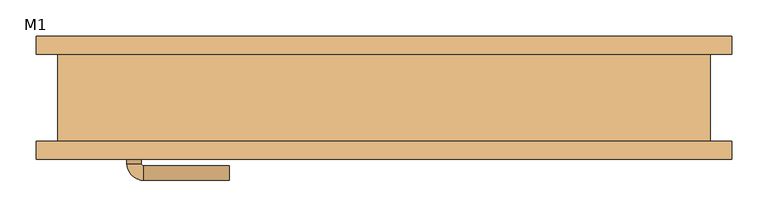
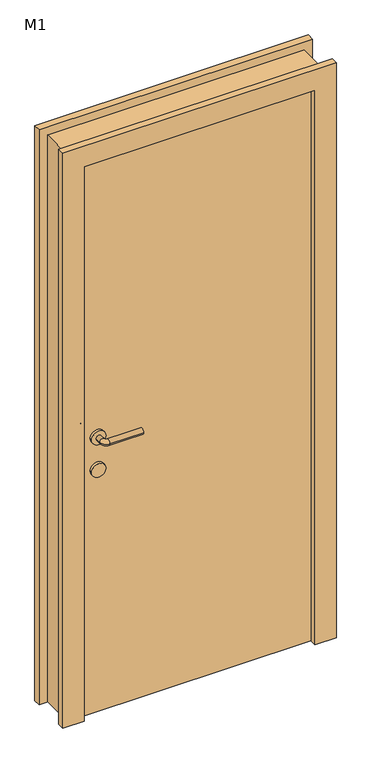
"""IFC4 building model written with IfcOpenShell, lengths in millimetres: door geometry, 单嵌板木门 1 : M1."""

import ifcopenshell
import ifcopenshell.guid

model = None  # the IFC model being written
_history = None  # IfcOwnerHistory: only IFC2X3 demands one
_inside = {}  # id of a spatial element -> (the spatial element, [elements in it])
_under = {}  # id of a project, library or spatial element -> (it, [spatial elements below it])
_declared = {}  # id of a project -> (the project, [libraries it declares])
_typed = {}  # id of a type object -> (the type object, [elements of that type])
_made_of = {}  # id of a material, layer set ... -> (it, [elements and type objects made of it])


def new_model(schema):
    """Start an empty IFC model of exactly this schema.

    Asked for "IFC4X3", IfcOpenShell would pick the latest addendum, in which some entities
    have other attributes; the version numbers below select the first issue.
    IFC2X3 requires an IfcOwnerHistory on every rooted entity: one is made here for all.
    """
    global model, _history
    if schema == "IFC4X3":
        model = ifcopenshell.file(schema_version=(4, 3, 0, 0))
    else:
        model = ifcopenshell.file(schema=schema)
    _inside.clear()
    _under.clear()
    _declared.clear()
    _typed.clear()
    _made_of.clear()
    _history = None
    if model.schema == "IFC2X3":
        org = make("IfcOrganization", Name="unknown")
        user = make(
            "IfcPersonAndOrganization",
            ThePerson=make("IfcPerson", FamilyName="unknown"),
            TheOrganization=org,
        )
        app = make(
            "IfcApplication",
            ApplicationDeveloper=org,
            Version="unknown",
            ApplicationFullName="unknown",
            ApplicationIdentifier="unknown",
        )
        _history = make(
            "IfcOwnerHistory",
            OwningUser=user,
            OwningApplication=app,
            ChangeAction="ADDED",
            CreationDate=0,
        )
    return model


def make(cls, **values):
    """One entity of the class cls with the attributes given. An attribute that is None is left unset."""
    return model.create_entity(
        cls, **{name: value for name, value in values.items() if value is not None}
    )


def rooted(cls, **values):
    """An entity with a GlobalId (a new one), such as an element, a storey or a relation."""
    return make(cls, GlobalId=ifcopenshell.guid.new(), OwnerHistory=_history, **values)


def si_unit(unit_type, name, prefix=None):
    """IfcSIUnit, for example si_unit("LENGTHUNIT", "METRE", prefix="MILLI")."""
    return make("IfcSIUnit", UnitType=unit_type, Prefix=prefix, Name=name)


def assignment(units):
    """IfcUnitAssignment: the units of a project."""
    return None if units is None else make("IfcUnitAssignment", Units=units)


def point(xyz):
    """IfcCartesianPoint."""
    return None if xyz is None else make("IfcCartesianPoint", Coordinates=xyz)


def direction(xyz):
    """IfcDirection."""
    return None if xyz is None else make("IfcDirection", DirectionRatios=xyz)


def frame(location, z_axis=None, x_axis=None):
    """IfcAxis2Placement3D, a coordinate frame: its origin and axes. An axis left out is left unset."""
    return make(
        "IfcAxis2Placement3D",
        Location=point(location),
        Axis=direction(z_axis),
        RefDirection=direction(x_axis),
    )


def frame_2d(location, x_axis=None):
    """IfcAxis2Placement2D, a coordinate frame in the plane: its origin and x axis."""
    return make(
        "IfcAxis2Placement2D", Location=point(location), RefDirection=direction(x_axis)
    )


def origin():
    """The frame at (0, 0, 0) with its axes left unset."""
    return frame((0.0, 0.0, 0.0))


def origin_with_axes():
    """The frame at (0, 0, 0) with the z axis (0, 0, 1) and the x axis (1, 0, 0) written out."""
    return frame((0.0, 0.0, 0.0), z_axis=(0.0, 0.0, 1.0), x_axis=(1.0, 0.0, 0.0))


def place(relative_to, where):
    """IfcLocalPlacement: puts the frame where relative to a parent placement (None: the world)."""
    return make(
        "IfcLocalPlacement", PlacementRelTo=relative_to, RelativePlacement=where
    )


def context(
    kind, dimensions, precision=None, world=None, true_north=None, identifier=None
):
    """IfcGeometricRepresentationContext, for example the 3D "Model" context."""
    return make(
        "IfcGeometricRepresentationContext",
        ContextIdentifier=identifier,
        ContextType=kind,
        CoordinateSpaceDimension=dimensions,
        Precision=precision,
        WorldCoordinateSystem=world,
        TrueNorth=true_north,
    )


def project(units=None, contexts=None):
    """IfcProject with its units and contexts."""
    return rooted(
        "IfcProject",
        Name="project",
        RepresentationContexts=contexts,
        UnitsInContext=assignment(units),
    )


def spatial(cls, under=None, at=None, **own):
    """A site, building, storey or space (cls), placed at a placement, below another one or the project."""
    s = rooted(cls, ObjectPlacement=at, **own)
    if under is not None:
        _under.setdefault(under.id(), (under, []))[1].append(s)
    return s


def polyline(points):
    """IfcPolyline through the points."""
    return make("IfcPolyline", Points=[point(p) for p in points])


def circle_curve(where, radius):
    """IfcCircle in the frame where."""
    return make("IfcCircle", Position=where, Radius=radius)


def ellipse_curve(where, semi_axis1, semi_axis2):
    """IfcEllipse in the frame where."""
    return make(
        "IfcEllipse", Position=where, SemiAxis1=semi_axis1, SemiAxis2=semi_axis2
    )


def trimmed(basis, trim1, trim2, sense, master):
    """IfcTrimmedCurve: the piece of a basis curve between two trims."""
    return make(
        "IfcTrimmedCurve",
        BasisCurve=basis,
        Trim1=trim1,
        Trim2=trim2,
        SenseAgreement=sense,
        MasterRepresentation=master,
    )


def segment(curve, same_sense, transition):
    """IfcCompositeCurveSegment."""
    return make(
        "IfcCompositeCurveSegment",
        Transition=transition,
        SameSense=same_sense,
        ParentCurve=curve,
    )


def composite_curve(segments, self_intersect=None):
    """IfcCompositeCurve: segments joined end to end."""
    return make("IfcCompositeCurve", Segments=segments, SelfIntersect=self_intersect)


def outline(outer, holes=None, kind="AREA"):
    """IfcArbitraryClosedProfileDef: a profile drawn as a closed curve; with holes, ...WithVoids."""
    if holes is None:
        return make("IfcArbitraryClosedProfileDef", ProfileType=kind, OuterCurve=outer)
    return make(
        "IfcArbitraryProfileDefWithVoids",
        ProfileType=kind,
        OuterCurve=outer,
        InnerCurves=holes,
    )


def extrude(swept, where, along, depth):
    """IfcExtrudedAreaSolid: the profile swept, set in the frame where, extruded along a direction by depth."""
    return make(
        "IfcExtrudedAreaSolid",
        SweptArea=swept,
        Position=where,
        ExtrudedDirection=direction(along),
        Depth=depth,
    )


def shape(context_of_items, identifier, shape_type, items):
    """IfcShapeRepresentation: the items that make up one representation, for example the "Body"."""
    return make(
        "IfcShapeRepresentation",
        ContextOfItems=context_of_items,
        RepresentationIdentifier=identifier,
        RepresentationType=shape_type,
        Items=items,
    )


def source(mapping_origin, context_of_items, identifier, shape_type, items):
    """IfcRepresentationMap: a shape defined once, which mapped items show again and again."""
    return make(
        "IfcRepresentationMap",
        MappingOrigin=mapping_origin,
        MappedRepresentation=shape(context_of_items, identifier, shape_type, items),
    )


def transform(
    local_origin,
    x_axis=None,
    y_axis=None,
    z_axis=None,
    scale=None,
    scale2=None,
    scale3=None,
    uniform=True,
):
    """IfcCartesianTransformationOperator3D, or its non-uniform kind. x_axis, y_axis, z_axis: its Axis1, 2, 3."""
    if uniform:
        return make(
            "IfcCartesianTransformationOperator3D",
            Axis1=direction(x_axis),
            Axis2=direction(y_axis),
            LocalOrigin=point(local_origin),
            Scale=scale,
            Axis3=direction(z_axis),
        )
    return make(
        "IfcCartesianTransformationOperator3DnonUniform",
        Axis1=direction(x_axis),
        Axis2=direction(y_axis),
        LocalOrigin=point(local_origin),
        Scale=scale,
        Axis3=direction(z_axis),
        Scale2=scale2,
        Scale3=scale3,
    )


def mapped(mapping_source, mapping_target):
    """IfcMappedItem: shows the shape of a source again, moved by a transform."""
    return make(
        "IfcMappedItem", MappingSource=mapping_source, MappingTarget=mapping_target
    )


def made_of(thing, what):
    """Note that an element or type object is made of a material, layer set ...; save() writes the relation."""
    if what is not None:
        _made_of.setdefault(what.id(), (what, []))[1].append(thing)
    return thing


def element(
    cls,
    number,
    at=None,
    inside=None,
    cuts=None,
    type_object=None,
    material=None,
    context=None,
    identifier="Body",
    shape_type=None,
    held_by="IfcProductDefinitionShape",
    body=None,
    shapes=None,
    **own,
):
    """One element of the class cls, such as IfcWall. Its Tag is "e" and its number.

    at: its placement. inside: the storey or other place that contains it. cuts: it is an
    opening in that element (IfcRelVoidsElement). A single representation is given by context,
    identifier, shape_type and body (its items); several are given by shapes. held_by: the class
    of the entity that holds the representations. save() writes the other relations.
    """
    e = rooted(cls, Tag="e%d" % number, ObjectPlacement=at, **own)
    if body is not None:
        shapes = [shape(context, identifier, shape_type, body)]
    if shapes is not None:
        e.Representation = make(held_by, Representations=shapes)
    if inside is not None:
        _inside.setdefault(inside.id(), (inside, []))[1].append(e)
    if cuts is not None:
        rooted(
            "IfcRelVoidsElement", RelatingBuildingElement=cuts, RelatedOpeningElement=e
        )
    if type_object is not None:
        _typed.setdefault(type_object.id(), (type_object, []))[1].append(e)
    return made_of(e, material)


def aggregate(whole, parts):
    """IfcRelAggregates: a whole, such as a stair, and the parts it consists of."""
    return rooted("IfcRelAggregates", RelatingObject=whole, RelatedObjects=parts)


def save(model, path):
    """Write the relations noted so far, then the file.

    IfcRelAggregates (storeys below a building ...), IfcRelContainedInSpatialStructure (elements
    in a storey), IfcRelDefinesByType, IfcRelAssociatesMaterial and IfcRelDeclares: one each for
    every whole, place, type object, material and project.
    """
    for whole, parts in _under.values():
        aggregate(whole, parts)
    for where, things in _inside.values():
        rooted(
            "IfcRelContainedInSpatialStructure",
            RelatedElements=things,
            RelatingStructure=where,
        )
    for kind, things in _typed.values():
        rooted("IfcRelDefinesByType", RelatedObjects=things, RelatingType=kind)
    for what, things in _made_of.values():
        rooted("IfcRelAssociatesMaterial", RelatedObjects=things, RelatingMaterial=what)
    for by, libraries in _declared.values():
        rooted("IfcRelDeclares", RelatingContext=by, RelatedDefinitions=libraries)
    model.write(path)


def plane_surface(at):
    """IfcPlane: the flat surface through the origin of the frame at, square to its z axis."""
    return make("IfcPlane", Position=at)


def cylinder_surface(at, radius):
    """IfcCylindricalSurface: all points at the distance radius from the z axis of the frame at."""
    return make("IfcCylindricalSurface", Position=at, Radius=radius)


def revolved_surface(curve, axis_point, axis_direction):
    """IfcSurfaceOfRevolution: the curve turned about the line through axis_point along axis_direction."""
    return make(
        "IfcSurfaceOfRevolution",
        SweptCurve=make("IfcArbitraryOpenProfileDef", ProfileType="CURVE", Curve=curve),
        AxisPosition=make("IfcAxis1Placement", Location=point(axis_point), Axis=direction(axis_direction)),
    )


def advanced_brep(points, edges, surfaces, faces):
    """IfcAdvancedBrep: a solid bounded by faces that lie on surfaces and meet in shared edges.

    An edge is (start, end): straight between two places in points (the first is 0);
    or (start, end, curve); or (start, end, curve, False) where it runs against its curve.
    A face is (place in surfaces, loops), or (place, loops, False) where it looks against
    its surface's normal. A loop lists edges by number (the first is 1), with a minus sign
    where the edge is run from its end to its start. The first loop is the outer one.
    """
    corners = [point(p) for p in points]
    vertices = [make("IfcVertexPoint", VertexGeometry=c) for c in corners]
    made = []
    for start, end, *more in edges:
        made.append(
            make(
                "IfcEdgeCurve",
                EdgeStart=vertices[start],
                EdgeEnd=vertices[end],
                EdgeGeometry=more[0] if more else make("IfcPolyline", Points=[corners[start], corners[end]]),
                SameSense=more[1] if len(more) > 1 else True,
            )
        )
    hull = []
    for where, loops, *sense in faces:
        bounds = []
        for j, loop in enumerate(loops):
            ring = [make("IfcOrientedEdge", EdgeElement=made[abs(k) - 1], Orientation=k > 0) for k in loop]
            bounds.append(
                make(
                    "IfcFaceOuterBound" if j == 0 else "IfcFaceBound",
                    Bound=make("IfcEdgeLoop", EdgeList=ring),
                    Orientation=True,
                )
            )
        hull.append(make("IfcAdvancedFace", Bounds=bounds, FaceSurface=surfaces[where], SameSense=sense[0] if sense else True))
    return make("IfcAdvancedBrep", Outer=make("IfcClosedShell", CfsFaces=hull))


def m1_178dd28f(model_context):
    return source(origin(), model_context, "Body", "SolidModel", [
        extrude(outline(composite_curve([segment(trimmed(circle_curve(frame_2d((900.0, -345.0)), 25.0), [point((900.0, -320.0))], [point((900.0, -370.0))], False, "CARTESIAN"), True, "CONTINUOUS"), segment(trimmed(circle_curve(frame_2d((900.0, -345.0)), 25.0), [point((900.0, -370.0))], [point((900.0, -320.0))], False, "CARTESIAN"), True, "CONTINUOUS")], self_intersect=False)), frame((0.0, -10.0, 0.0), z_axis=(0.0, 1.0, 0.0), x_axis=(0.0, 0.0, 1.0)), (0.0, 0.0, 1.0), 10.0),
        extrude(outline(composite_curve([segment(trimmed(circle_curve(frame_2d((900.0, -345.0)), 25.0), [point((900.0, -320.0))], [point((900.0, -370.0))], False, "CARTESIAN"), True, "CONTINUOUS"), segment(trimmed(circle_curve(frame_2d((900.0, -345.0)), 25.0), [point((900.0, -370.0))], [point((900.0, -320.0))], False, "CARTESIAN"), True, "CONTINUOUS")], self_intersect=False)), frame((0.0, -70.0, 0.0), z_axis=(0.0, 1.0, 0.0), x_axis=(0.0, 0.0, 1.0)), (0.0, 0.0, 1.0), 10.0),
        advanced_brep(
        [(-355.0, 0.0, 1020.0), (-335.0, 0.0, 1020.0), (-355.0, 20.613355, 1020.0), (-335.0, 20.613355, 1020.0), (-213.419036, 43.580964, 1020.0), (-213.419036, 23.580964, 1020.0), (-332.0323911, 23.580964, 1020.0), (-332.0323911, 43.580964, 1020.0)],
        [
            (0, 1, circle_curve(frame((-345.0, 0.0, 1020.0), z_axis=(0.0, -1.0, 0.0), x_axis=(1.0, 0.0, 0.0)), 10.0)),
            (1, 0, circle_curve(frame((-345.0, 0.0, 1020.0), z_axis=(0.0, -1.0, 0.0), x_axis=(1.0, 0.0, 0.0)), 10.0)),
            (0, 2),
            (2, 3, circle_curve(frame((-345.0, 20.613355, 1020.0), z_axis=(0.0, -1.0, 0.0), x_axis=(1.0, 0.0, 0.0)), 10.0)),
            (3, 1),
            (3, 2, circle_curve(frame((-345.0, 20.613355, 1020.0), z_axis=(0.0, -1.0, 0.0), x_axis=(1.0, 0.0, 0.0)), 10.0)),
            (4, 5, circle_curve(frame((-213.419036, 33.580964, 1020.0), z_axis=(1.0, 0.0, 0.0), x_axis=(0.0, -1.0, 0.0)), 10.0)),
            (5, 4, circle_curve(frame((-213.419036, 33.580964, 1020.0), z_axis=(1.0, 0.0, 0.0), x_axis=(0.0, -1.0, 0.0)), 10.0)),
            (6, 7, circle_curve(frame((-332.0323911, 33.580964, 1020.0), z_axis=(-1.0, 0.0, 0.0), x_axis=(0.0, -1.0, 0.0)), 10.0)),
            (7, 2, circle_curve(frame((-332.0323911, 20.613355, 1020.0), z_axis=(0.0, 0.0, 1.0), x_axis=(-1.0, 0.0, 0.0)), 22.9676089)),
            (3, 6, circle_curve(frame((-332.0323911, 20.613355, 1020.0), z_axis=(0.0, 0.0, -1.0), x_axis=(-1.0, 0.0, 0.0)), 2.9676089)),
            (7, 6, circle_curve(frame((-332.0323911, 33.580964, 1020.0), z_axis=(-1.0, 0.0, 0.0), x_axis=(0.0, -1.0, 0.0)), 10.0)),
            (6, 5),
            (4, 7),
        ],
        [
            plane_surface(frame((-345.0, 0.0, 900.0), z_axis=(0.0, -1.0, 0.0), x_axis=(0.0, 0.0, 1.0))),
            cylinder_surface(frame((-345.0, 0.0, 1020.0), z_axis=(0.0, -1.0, 0.0), x_axis=(1.0, 0.0, 0.0)), 10.0),
            plane_surface(frame((-213.419036, 33.580964, 900.0), z_axis=(1.0, 0.0, 0.0), x_axis=(0.0, 0.0, 1.0))),
            revolved_surface(trimmed(ellipse_curve(frame((-345.0, 20.613355, 1020.0), z_axis=(0.0, 1.0, 0.0), x_axis=(1.0, 0.0, 0.0)), 10.0, 10.0), [point((-355.0, 20.613355, 1020.0))], [point((-335.0, 20.613355, 1020.0))], True, "CARTESIAN"), (-332.0323911, 20.613355, 900.0), (0.0, 0.0, 1.0)),
            revolved_surface(trimmed(ellipse_curve(frame((-345.0, 20.613355, 1020.0), z_axis=(0.0, 1.0, 0.0), x_axis=(1.0, 0.0, 0.0)), 10.0, 10.0), [point((-335.0, 20.613355, 1020.0))], [point((-355.0, 20.613355, 1020.0))], True, "CARTESIAN"), (-332.0323911, 20.613355, 900.0), (0.0, 0.0, 1.0)),
            cylinder_surface(frame((-332.0323911, 33.580964, 1020.0), z_axis=(-1.0, 0.0, 0.0), x_axis=(0.0, -1.0, 0.0)), 10.0),
        ],
        [
            (0, [[1, 2]]),
            (1, [[3, 4, 5, -1]]),
            (1, [[-5, 6, -3, -2]]),
            (2, [[7, 8]]),
            (3, [[9, 10, -6, 11]]),
            (4, [[12, -11, -4, -10]]),
            (5, [[13, -7, 14, -9]]),
            (5, [[-14, -8, -13, -12]]),
        ],
    ),
        extrude(outline(composite_curve([segment(trimmed(circle_curve(frame_2d((1020.0, -345.0)), 25.0), [point((1020.0, -320.0))], [point((1020.0, -370.0))], False, "CARTESIAN"), True, "CONTINUOUS"), segment(trimmed(circle_curve(frame_2d((1020.0, -345.0)), 25.0), [point((1020.0, -370.0))], [point((1020.0, -320.0))], False, "CARTESIAN"), True, "CONTINUOUS")], self_intersect=False)), frame((0.0, -10.0, 0.0), z_axis=(0.0, 1.0, 0.0), x_axis=(0.0, 0.0, 1.0)), (0.0, 0.0, 1.0), 10.0),
        advanced_brep(
        [(-335.0, -70.0, 1020.0), (-355.0, -70.0, 1020.0), (-355.0, -90.6133551, 1020.0), (-335.0, -90.6133551, 1020.0), (-213.419036, -93.580964, 1020.0), (-213.419036, -113.580964, 1020.0), (-332.0323911, -113.580964, 1020.0), (-332.0323911, -93.580964, 1020.0)],
        [
            (0, 1, circle_curve(frame((-345.0, -70.0, 1020.0), z_axis=(0.0, 1.0, 0.0), x_axis=(-1.0, 0.0, 0.0)), 10.0)),
            (1, 0, circle_curve(frame((-345.0, -70.0, 1020.0), z_axis=(0.0, 1.0, 0.0), x_axis=(-1.0, 0.0, 0.0)), 10.0)),
            (1, 2),
            (2, 3, circle_curve(frame((-345.0, -90.6133551, 1020.0), z_axis=(0.0, 1.0, 0.0), x_axis=(-1.0, 0.0, 0.0)), 10.0)),
            (3, 0),
            (3, 2, circle_curve(frame((-345.0, -90.6133551, 1020.0), z_axis=(0.0, 1.0, 0.0), x_axis=(-1.0, 0.0, 0.0)), 10.0)),
            (4, 5, circle_curve(frame((-213.419036, -103.580964, 1020.0), z_axis=(1.0, 0.0, 0.0), x_axis=(0.0, -1.0, 0.0)), 10.0)),
            (5, 4, circle_curve(frame((-213.419036, -103.580964, 1020.0), z_axis=(1.0, 0.0, 0.0), x_axis=(0.0, -1.0, 0.0)), 10.0)),
            (6, 7, circle_curve(frame((-332.0323911, -103.580964, 1020.0), z_axis=(-1.0, 0.0, 0.0), x_axis=(0.0, -1.0, 0.0)), 10.0)),
            (7, 3, circle_curve(frame((-332.0323911, -90.6133551, 1020.0), z_axis=(0.0, 0.0, -1.0), x_axis=(-1.0, 0.0, 0.0)), 2.9676089)),
            (2, 6, circle_curve(frame((-332.0323911, -90.6133551, 1020.0), z_axis=(0.0, 0.0, 1.0), x_axis=(-1.0, 0.0, 0.0)), 22.9676089)),
            (7, 6, circle_curve(frame((-332.0323911, -103.580964, 1020.0), z_axis=(-1.0, 0.0, 0.0), x_axis=(0.0, -1.0, 0.0)), 10.0)),
            (6, 5),
            (4, 7),
        ],
        [
            plane_surface(frame((-345.0, -70.0, 900.0), z_axis=(0.0, 1.0, 0.0), x_axis=(0.0, 0.0, 1.0))),
            cylinder_surface(frame((-345.0, -70.0, 1020.0), z_axis=(0.0, 1.0, 0.0), x_axis=(-1.0, 0.0, 0.0)), 10.0),
            plane_surface(frame((-213.419036, -103.580964, 900.0), z_axis=(1.0, 0.0, 0.0), x_axis=(0.0, 0.0, 1.0))),
            revolved_surface(trimmed(ellipse_curve(frame((-345.0, -90.6133551, 1020.0), z_axis=(0.0, -1.0, 0.0), x_axis=(-1.0, 0.0, 0.0)), 10.0, 10.0), [point((-335.0, -90.6133551, 1020.0))], [point((-355.0, -90.6133551, 1020.0))], True, "CARTESIAN"), (-332.0323911, -90.6133551, 900.0), (0.0, 0.0, -1.0)),
            revolved_surface(trimmed(ellipse_curve(frame((-345.0, -90.6133551, 1020.0), z_axis=(0.0, -1.0, 0.0), x_axis=(-1.0, 0.0, 0.0)), 10.0, 10.0), [point((-355.0, -90.6133551, 1020.0))], [point((-335.0, -90.6133551, 1020.0))], True, "CARTESIAN"), (-332.0323911, -90.6133551, 900.0), (0.0, 0.0, -1.0)),
            cylinder_surface(frame((-332.0323911, -103.580964, 1020.0), z_axis=(-1.0, 0.0, 0.0), x_axis=(0.0, -1.0, 0.0)), 10.0),
        ],
        [
            (0, [[1, 2]]),
            (1, [[3, 4, 5, -2]]),
            (1, [[-5, 6, -3, -1]]),
            (2, [[7, 8]]),
            (3, [[9, 10, -4, 11]]),
            (4, [[12, -11, -6, -10]]),
            (5, [[13, -7, 14, -9]]),
            (5, [[-14, -8, -13, -12]]),
        ],
    ),
        extrude(outline(composite_curve([segment(trimmed(circle_curve(frame_2d((1020.0, -345.0)), 25.0), [point((1020.0, -320.0))], [point((1020.0, -370.0))], False, "CARTESIAN"), True, "CONTINUOUS"), segment(trimmed(circle_curve(frame_2d((1020.0, -345.0)), 25.0), [point((1020.0, -370.0))], [point((1020.0, -320.0))], False, "CARTESIAN"), True, "CONTINUOUS")], self_intersect=False)), frame((0.0, -70.0, 0.0), z_axis=(0.0, 1.0, 0.0), x_axis=(0.0, 0.0, 1.0)), (0.0, 0.0, 1.0), 10.0),
        extrude(outline(polyline([(0.0, 480.0), (2130.0, 480.0), (2130.0, -480.0), (0.0, -480.0), (0.0, -405.0), (2055.0, -405.0), (2055.0, 405.0), (0.0, 405.0), (0.0, 480.0)])), frame((0.0, -85.0, 0.0), z_axis=(0.0, 1.0, 0.0), x_axis=(0.0, 0.0, 1.0)), (0.0, 0.0, 1.0), 25.0),
        extrude(outline(polyline([(2130.0, 480.0), (2130.0, -480.0), (0.0, -480.0), (0.0, -405.0), (2055.0, -405.0), (2055.0, 405.0), (0.0, 405.0), (0.0, 480.0), (2130.0, 480.0)])), frame((0.0, 60.0, 0.0), z_axis=(0.0, 1.0, 0.0), x_axis=(0.0, 0.0, 1.0)), (0.0, 0.0, 1.0), 25.0),
        extrude(outline(polyline([(405.0, -10.0), (405.0, -60.0), (-405.0, -60.0), (-405.0, -10.0), (405.0, -10.0)])), origin_with_axes(), (0.0, 0.0, 1.0), 2055.0),
        extrude(outline(polyline([(2100.0, -450.0), (0.0, -450.0), (0.0, -405.0), (2055.0, -405.0), (2055.0, 405.0), (0.0, 405.0), (0.0, 450.0), (2100.0, 450.0), (2100.0, -450.0)])), frame((0.0, -60.0, 0.0), z_axis=(0.0, 1.0, 0.0), x_axis=(0.0, 0.0, 1.0)), (0.0, 0.0, 1.0), 120.0),
    ])


if __name__ == "__main__":
    model = new_model("IFC4")
    model_context = context("Model", 3, world=origin())
    ifc_project = project(units=[si_unit("LENGTHUNIT", "METRE", prefix="MILLI")], contexts=[model_context])
    site = spatial("IfcSite", under=ifc_project)
    building = spatial("IfcBuilding", under=site)
    placement = place(None, origin())
    m1_shape = m1_178dd28f(model_context)
    element("IfcDoor", 1, ObjectType="单嵌板木门 1 : M1", at=placement, inside=building, context=model_context, shape_type="MappedRepresentation", body=[
        mapped(m1_shape, transform((0.0, 0.0, 0.0), x_axis=(1.0, 0.0, 0.0), y_axis=(0.0, 1.0, 0.0), z_axis=(0.0, 0.0, 1.0))),
    ])
    save(model, "model.ifc")
